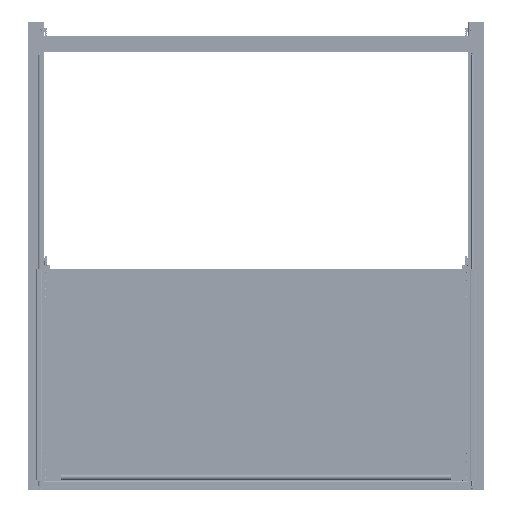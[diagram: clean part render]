
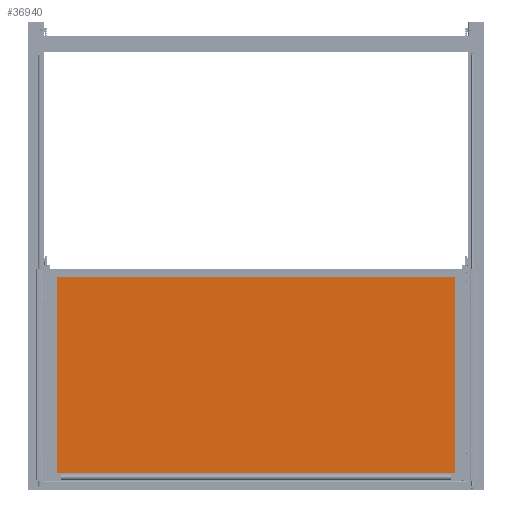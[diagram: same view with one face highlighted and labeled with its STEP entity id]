
A CAD part, top view. The second image highlights one B-rep face of the part: STEP entity #36940.
In plain terms, the highlighted planar face has unit normal (0, 0, 1) as drawn and (0, 0, -1) by its records, which use the part's own axes.
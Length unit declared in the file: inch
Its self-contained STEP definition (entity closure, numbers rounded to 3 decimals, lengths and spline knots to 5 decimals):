
#36808=CARTESIAN_POINT('',(0.32283,-45.38976,0.0));
#36809=VERTEX_POINT('',#36808);
#36816=CARTESIAN_POINT('',(0.32283,45.38976,0.0));
#36817=VERTEX_POINT('',#36816);
#36818=CARTESIAN_POINT('',(0.32283,45.38976,0.0));
#36819=DIRECTION('',(0.0,-1.0,0.0));
#36820=VECTOR('',#36819,90.77953);
#36821=LINE('',#36818,#36820);
#36822=EDGE_CURVE('',#36817,#36809,#36821,.T.);
#36846=CARTESIAN_POINT('',(-45.13386,-45.38976,0.0));
#36847=VERTEX_POINT('',#36846);
#36854=CARTESIAN_POINT('',(0.32283,-45.38976,0.0));
#36855=DIRECTION('',(-1.0,0.0,0.0));
#36856=VECTOR('',#36855,45.45669);
#36857=LINE('',#36854,#36856);
#36858=EDGE_CURVE('',#36809,#36847,#36857,.T.);
#36877=CARTESIAN_POINT('',(-45.13386,45.38976,0.0));
#36878=VERTEX_POINT('',#36877);
#36885=CARTESIAN_POINT('',(-45.13386,-45.38976,0.0));
#36886=DIRECTION('',(0.0,1.0,0.0));
#36887=VECTOR('',#36886,90.77953);
#36888=LINE('',#36885,#36887);
#36889=EDGE_CURVE('',#36847,#36878,#36888,.T.);
#36907=CARTESIAN_POINT('',(-45.13386,45.38976,0.0));
#36908=DIRECTION('',(1.0,0.0,0.0));
#36909=VECTOR('',#36908,45.45669);
#36910=LINE('',#36907,#36909);
#36911=EDGE_CURVE('',#36878,#36817,#36910,.T.);
#36929=CARTESIAN_POINT('',(-22.40551,0.,0.0));
#36930=DIRECTION('',(0.0,0.0,1.0));
#36931=DIRECTION('',(1.0,0.0,0.0));
#36932=AXIS2_PLACEMENT_3D('',#36929,#36930,#36931);
#36933=PLANE('',#36932);
#36934=ORIENTED_EDGE('',*,*,#36911,.T.);
#36935=ORIENTED_EDGE('',*,*,#36822,.T.);
#36936=ORIENTED_EDGE('',*,*,#36858,.T.);
#36937=ORIENTED_EDGE('',*,*,#36889,.T.);
#36938=EDGE_LOOP('',(#36934,#36935,#36936,#36937));
#36939=FACE_OUTER_BOUND('',#36938,.T.);
#36940=ADVANCED_FACE('',(#36939),#36933,.F.);
